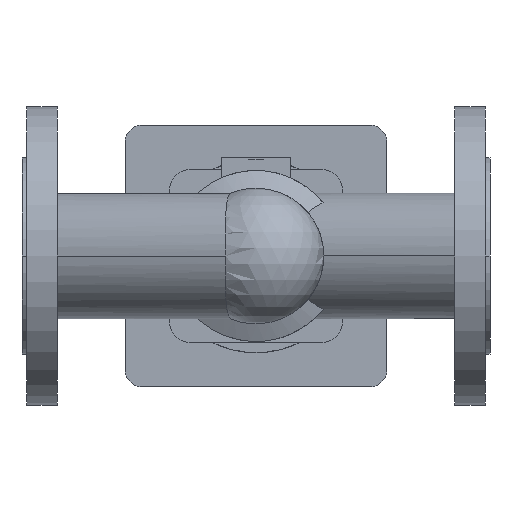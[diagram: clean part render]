
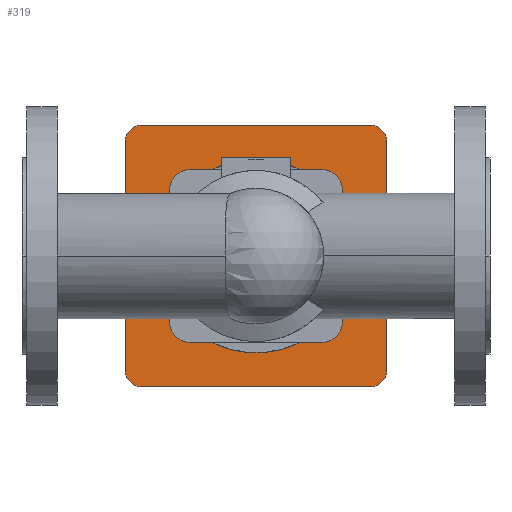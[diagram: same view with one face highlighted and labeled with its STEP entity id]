
A CAD part, front view. The second image highlights one B-rep face of the part: STEP entity #319.
In plain terms, the highlighted planar face has unit normal (0, -1, 0).
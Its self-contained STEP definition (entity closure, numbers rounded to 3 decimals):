
#319 = ADVANCED_FACE( '', ( #793, #794 ), #795, .F. );
#793 = FACE_OUTER_BOUND( '', #1293, .T. );
#794 = FACE_BOUND( '', #1294, .T. );
#795 = PLANE( '', #1295 );
#1293 = EDGE_LOOP( '', ( #2908, #2909, #2910, #2911, #2912, #2913, #2914, #2915 ) );
#1294 = EDGE_LOOP( '', ( #2916, #2917 ) );
#1295 = AXIS2_PLACEMENT_3D( '', #2918, #2919, #2920 );
#2908 = ORIENTED_EDGE( '', *, *, #3587, .F. );
#2909 = ORIENTED_EDGE( '', *, *, #3588, .F. );
#2910 = ORIENTED_EDGE( '', *, *, #3589, .F. );
#2911 = ORIENTED_EDGE( '', *, *, #3590, .F. );
#2912 = ORIENTED_EDGE( '', *, *, #3591, .F. );
#2913 = ORIENTED_EDGE( '', *, *, #3592, .F. );
#2914 = ORIENTED_EDGE( '', *, *, #3593, .F. );
#2915 = ORIENTED_EDGE( '', *, *, #3594, .F. );
#2916 = ORIENTED_EDGE( '', *, *, #3502, .F. );
#2917 = ORIENTED_EDGE( '', *, *, #3595, .F. );
#2918 = CARTESIAN_POINT( '', ( 145., 667.5, 0. ) );
#2919 = DIRECTION( '', ( 0., 1., 0. ) );
#2920 = DIRECTION( '', ( 0., 0., 1. ) );
#3502 = EDGE_CURVE( '', #4327, #4330, #4331, .T. );
#3587 = EDGE_CURVE( '', #4474, #4475, #4476, .T. );
#3588 = EDGE_CURVE( '', #4477, #4474, #4478, .T. );
#3589 = EDGE_CURVE( '', #4479, #4477, #4480, .T. );
#3590 = EDGE_CURVE( '', #4481, #4479, #4482, .T. );
#3591 = EDGE_CURVE( '', #4483, #4481, #4484, .T. );
#3592 = EDGE_CURVE( '', #4485, #4483, #4486, .T. );
#3593 = EDGE_CURVE( '', #4487, #4485, #4488, .T. );
#3594 = EDGE_CURVE( '', #4475, #4487, #4489, .T. );
#3595 = EDGE_CURVE( '', #4330, #4327, #4490, .T. );
#4327 = VERTEX_POINT( '', #5968 );
#4330 = VERTEX_POINT( '', #5972 );
#4331 = CIRCLE( '', #5973, 40. );
#4474 = VERTEX_POINT( '', #6171 );
#4475 = VERTEX_POINT( '', #6172 );
#4476 = CIRCLE( '', #6173, 10. );
#4477 = VERTEX_POINT( '', #6174 );
#4478 = LINE( '', #6175, #6176 );
#4479 = VERTEX_POINT( '', #6177 );
#4480 = CIRCLE( '', #6178, 10. );
#4481 = VERTEX_POINT( '', #6179 );
#4482 = LINE( '', #6180, #6181 );
#4483 = VERTEX_POINT( '', #6182 );
#4484 = CIRCLE( '', #6183, 10. );
#4485 = VERTEX_POINT( '', #6184 );
#4486 = LINE( '', #6185, #6186 );
#4487 = VERTEX_POINT( '', #6187 );
#4488 = CIRCLE( '', #6188, 10. );
#4489 = LINE( '', #6189, #6190 );
#4490 = CIRCLE( '', #6191, 40. );
#5968 = CARTESIAN_POINT( '', ( 105., 667.5, 0. ) );
#5972 = CARTESIAN_POINT( '', ( 185., 667.5, 0. ) );
#5973 = AXIS2_PLACEMENT_3D( '', #7040, #7041, #7042 );
#6171 = CARTESIAN_POINT( '', ( 64., 667.5, 71. ) );
#6172 = CARTESIAN_POINT( '', ( 74., 667.5, 81. ) );
#6173 = AXIS2_PLACEMENT_3D( '', #7185, #7186, #7187 );
#6174 = CARTESIAN_POINT( '', ( 64., 667.5, -71. ) );
#6175 = CARTESIAN_POINT( '', ( 64., 667.5, -71. ) );
#6176 = VECTOR( '', #7188, 1. );
#6177 = CARTESIAN_POINT( '', ( 74., 667.5, -81. ) );
#6178 = AXIS2_PLACEMENT_3D( '', #7189, #7190, #7191 );
#6179 = CARTESIAN_POINT( '', ( 216., 667.5, -81. ) );
#6180 = CARTESIAN_POINT( '', ( 216., 667.5, -81. ) );
#6181 = VECTOR( '', #7192, 1. );
#6182 = CARTESIAN_POINT( '', ( 226., 667.5, -71. ) );
#6183 = AXIS2_PLACEMENT_3D( '', #7193, #7194, #7195 );
#6184 = CARTESIAN_POINT( '', ( 226., 667.5, 71. ) );
#6185 = CARTESIAN_POINT( '', ( 226., 667.5, 71. ) );
#6186 = VECTOR( '', #7196, 1. );
#6187 = CARTESIAN_POINT( '', ( 216., 667.5, 81. ) );
#6188 = AXIS2_PLACEMENT_3D( '', #7197, #7198, #7199 );
#6189 = CARTESIAN_POINT( '', ( 74., 667.5, 81. ) );
#6190 = VECTOR( '', #7200, 1. );
#6191 = AXIS2_PLACEMENT_3D( '', #7201, #7202, #7203 );
#7040 = CARTESIAN_POINT( '', ( 145., 667.5, 0. ) );
#7041 = DIRECTION( '', ( 0., -1., 0. ) );
#7042 = DIRECTION( '', ( -1., 0., 0. ) );
#7185 = CARTESIAN_POINT( '', ( 74., 667.5, 71. ) );
#7186 = DIRECTION( '', ( 0., 1., 0. ) );
#7187 = DIRECTION( '', ( -1., 0., 0. ) );
#7188 = DIRECTION( '', ( 0., 0., 1. ) );
#7189 = CARTESIAN_POINT( '', ( 74., 667.5, -71. ) );
#7190 = DIRECTION( '', ( 0., 1., 0. ) );
#7191 = DIRECTION( '', ( 0., 0., -1. ) );
#7192 = DIRECTION( '', ( -1., 0., 0. ) );
#7193 = CARTESIAN_POINT( '', ( 216., 667.5, -71. ) );
#7194 = DIRECTION( '', ( 0., 1., 0. ) );
#7195 = DIRECTION( '', ( 1., 0., 0. ) );
#7196 = DIRECTION( '', ( 0., 0., -1. ) );
#7197 = CARTESIAN_POINT( '', ( 216., 667.5, 71. ) );
#7198 = DIRECTION( '', ( 0., 1., 0. ) );
#7199 = DIRECTION( '', ( 0., 0., 1. ) );
#7200 = DIRECTION( '', ( 1., 0., 0. ) );
#7201 = CARTESIAN_POINT( '', ( 145., 667.5, 0. ) );
#7202 = DIRECTION( '', ( 0., -1., 0. ) );
#7203 = DIRECTION( '', ( -1., 0., 0. ) );
